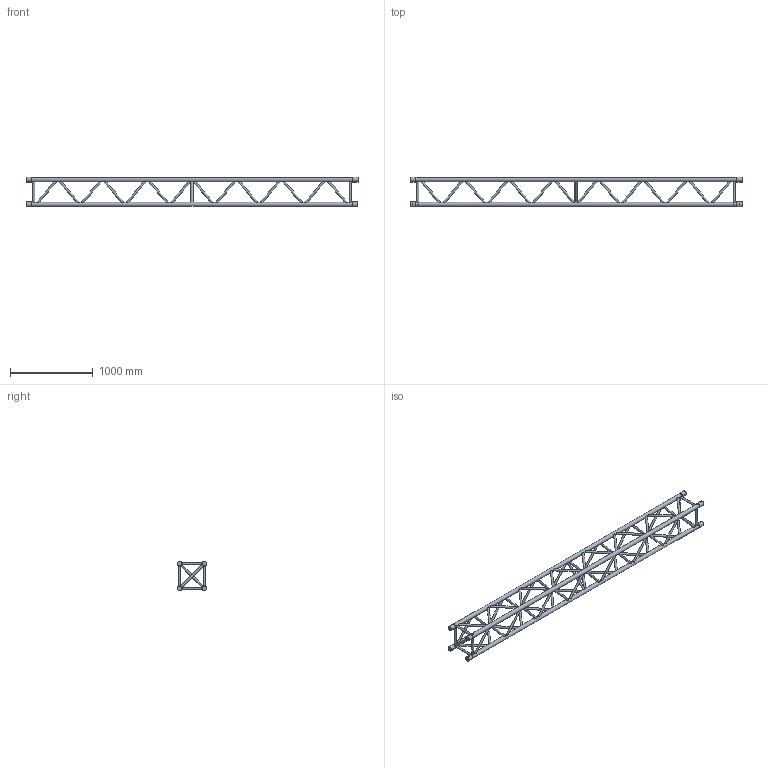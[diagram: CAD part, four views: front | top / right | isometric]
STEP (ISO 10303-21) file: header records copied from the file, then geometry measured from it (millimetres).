
FILE_DESCRIPTION(/* description */ (''),/* implementation_level */ '2;1');
FILE_NAME(/* name */ 'C:\Users\corina\Desktop\111110073.stp',/* time_stamp */ '2016-09-09T13:32:30+03:00',/* author */ ('corina.carstoveanu'),/* organization */ (''),/* preprocessor_version */ 'ST-DEVELOPER v15.6',/* originating_system */ 'Autodesk Inventor 2015',/* authorisation */ '');
FILE_SCHEMA (('AUTOMOTIVE_DESIGN { 1 0 10303 214 3 1 1 }'));
Length unit declared in the file: millimetre
Products named in the file (1): 260030882
Bounding box: 4000 x 357.8 x 357.8 mm (x, y, z)
Volume: 10224567.9 mm3; surface area: 4260514.7 mm2
Topology: 5 solids, 6 shells, 304 faces, 896 edges, 590 vertices
Faces by surface type: cylinder 156, plane 108, cone 40
Full cylindrical faces by diameter (mm): 10 x8, 25 x67, 50 x4, 58.8 x8
Entity records: 14486 total; most frequent: CARTESIAN_POINT 8014, ORIENTED_EDGE 1184, DIRECTION 1098, EDGE_CURVE 566, EDGE_LOOP 536, AXIS2_PLACEMENT_3D 480, VERTEX_POINT 420, FACE_BOUND 269
